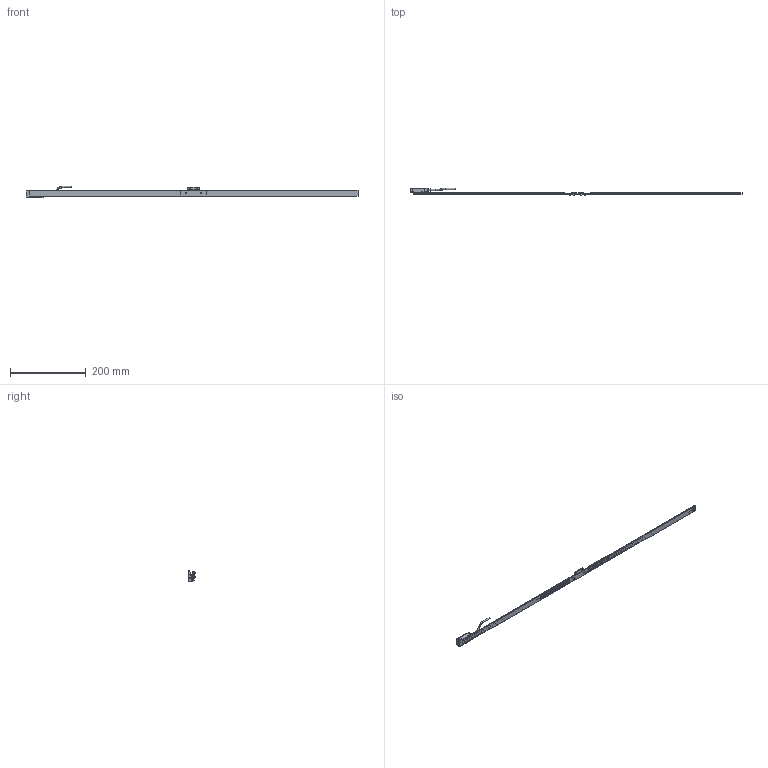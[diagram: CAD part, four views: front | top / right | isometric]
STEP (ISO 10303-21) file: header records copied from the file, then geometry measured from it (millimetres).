
FILE_DESCRIPTION(('Creo Elements/Direct Modeling STEP Export'),'2;1');
FILE_NAME('EXG_EXGA-840.stp','2017-01-13T12:36:32',(''),(''),'Creo Elements/Direct Modeling STEP processor for AP214 (Solid Model)','Creo Elements/Direct Modeling 18.1H 24-Oct-2015 (C) Parametric Technology GmbH','');
FILE_SCHEMA(('AUTOMOTIVE_DESIGN { 1 0 10303 214 1 1 1 1 }'));
Length unit declared in the file: millimetre
Products named in the file (4): CABEZA_REGLA_EXPOSED; Regla_64
Assembly tree (2 placements, depth 2):
  CABEZA_REGLA_EXPOSED
    CABEZA_REGLA_EXPOSED
  Regla_64
    Regla_64
Bounding box: 878 x 19.51 x 29.33 mm (x, y, z)
Volume: 41256.8 mm3; surface area: 60308.5 mm2
Topology: 2 solids, 4 shells, 508 faces, 1339 edges, 854 vertices
Faces by surface type: plane 255, cylinder 149, cone 88, torus 16
Entity records: 16964 total; most frequent: CARTESIAN_POINT 2901, ORIENTED_EDGE 2654, DIRECTION 2465, EDGE_CURVE 1327, VERTEX_POINT 854, AXIS2_PLACEMENT_3D 847, VECTOR 771, LINE 771
